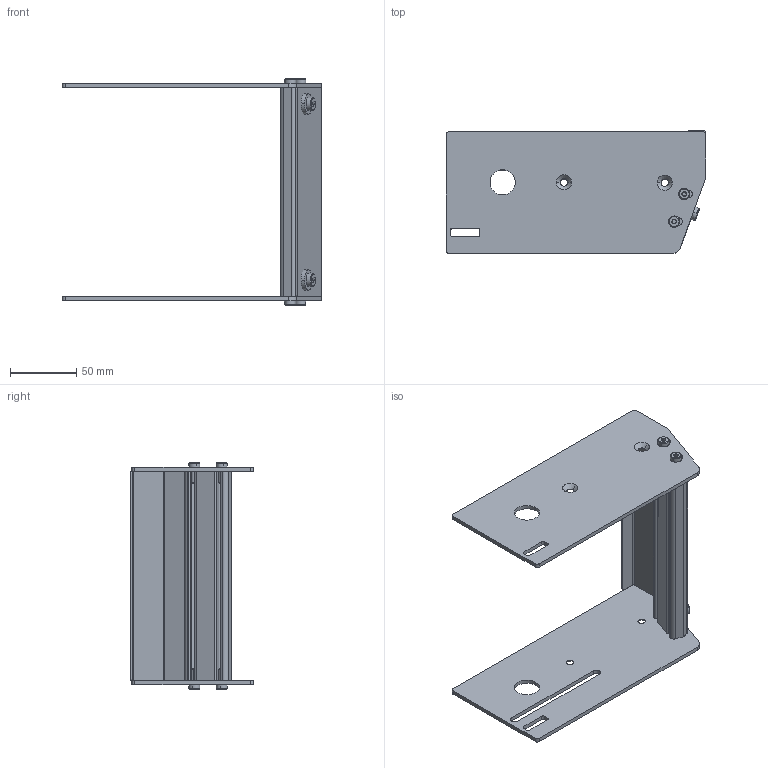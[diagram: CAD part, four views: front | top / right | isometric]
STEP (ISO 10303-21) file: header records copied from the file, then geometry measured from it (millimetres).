
FILE_DESCRIPTION((''),'2;1');
FILE_NAME('351199-06_ASM','2023-03-15T',('jenni.wallner'),(''),'PRO/ENGINEER BY PARAMETRIC TECHNOLOGY CORPORATION, 2012420','PRO/ENGINEER BY PARAMETRIC TECHNOLOGY CORPORATION, 2012420','');
FILE_SCHEMA(('CONFIG_CONTROL_DESIGN'));
Length unit declared in the file: inch
Products named in the file (10): 990603M; 351201; 605279P; 9505XXM_950512M; 9506XXM_950612M; 351200_DEFAULT_AS_MACHINED_; 351203-WW_351203-06; 351202-WW_351202-06; ASM0001_ASM; 351199-06_ASM
Assembly tree (15 placements, depth 3):
  351199-06_ASM
    ASM0001_ASM
      990603M  x2
      351201
      605279P  x2
      9505XXM_950512M  x4
      9506XXM_950612M  x2
      351200_DEFAULT_AS_MACHINED_
      351203-WW_351203-06
      351202-WW_351202-06
Bounding box: 196.11 x 93.08 x 171.49 mm (x, y, z)
Volume: 167182.2 mm3; surface area: 128855.1 mm2
Topology: 14 solids, 14 shells, 337 faces, 809 edges, 512 vertices
Faces by surface type: plane 150, cylinder 119, cone 68
Entity records: 7476 total; most frequent: CARTESIAN_POINT 1364, DIRECTION 1336, ORIENTED_EDGE 1172, EDGE_CURVE 586, AXIS2_PLACEMENT_3D 501, VERTEX_POINT 380, VECTOR 334, LINE 334
